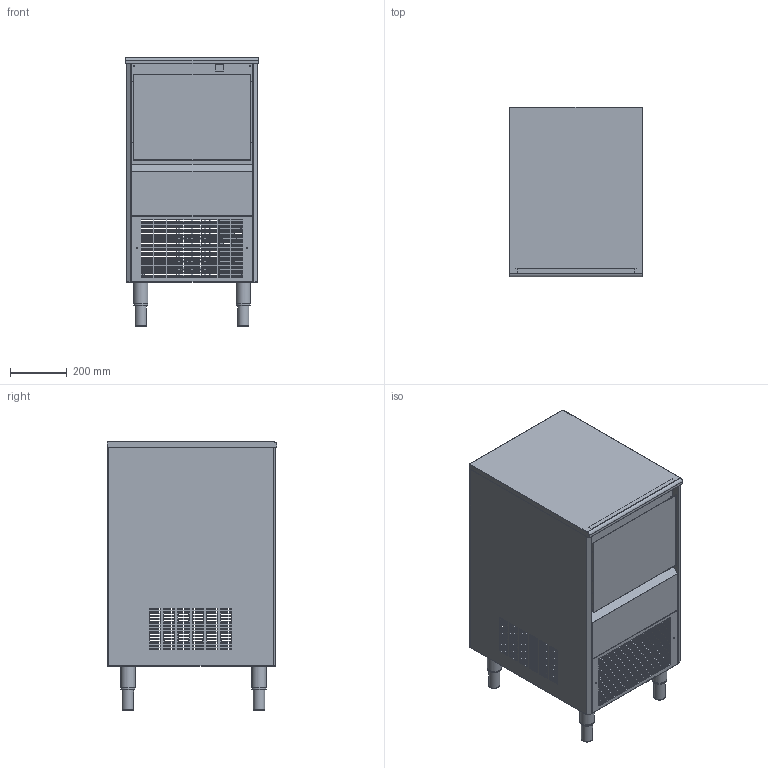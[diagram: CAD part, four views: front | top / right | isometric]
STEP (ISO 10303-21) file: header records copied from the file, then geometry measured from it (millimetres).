
FILE_DESCRIPTION(/* description */ ('Unknown'),/* implementation_level */ '2;1');
FILE_NAME(/* name */ 'ICE-TECH CD 55',/* time_stamp */ '2018-04-20T08:09:42+02:00',/* author */ ('Unknown'),/* organization */ ('Unknown'),/* preprocessor_version */ 'ST-DEVELOPER v16.7',/* originating_system */ 'DEX',/* authorisation */ $);
FILE_SCHEMA (('CONFIG_CONTROL_DESIGN'));
Products named in the file (16): NG-40; NG-40+carroceria_oa_0; 32-10+490; 32-4+161; 32-5+207; 32-7+421; 32-6+418; 32-44+4400; 32-11+5030_oa_1; 32-12+484; 32-9+920; 25-35+1728; 32-10+489; 32-25+635; 32-30; H-205
Assembly tree (18 placements, depth 4):
  NG-40
    NG-40+carroceria_oa_0
      32-10+490
      32-4+161
      32-5+207
      32-7+421
      32-6+418
      32-44+4400
      32-11+5030_oa_1
        32-12+484
      32-9+920
      25-35+1728
      32-10+489
      32-25+635
    32-30  x4
    H-205
Bounding box: 465 x 595.2 x 942.9 mm (x, y, z)
Volume: 3008623.8 mm3; surface area: 5015586.7 mm2
Topology: 16 solids, 16 shells, 2661 faces, 7854 edges, 5201 vertices
Faces by surface type: plane 1978, cylinder 665, torus 8, bspline 6, cone 4
Full cylindrical faces by diameter (mm): 2.4 x18, 2.7 x8, 2.9 x5, 3.5 x27, 4 x3, 4.25 x36, 5 x25, 6 x4, 7 x10, 8 x2, 9 x2, 10 x4, 20 x4, 30 x1, 38 x4, 40 x4, 50 x4, 51 x4
Entity records: 88319 total; most frequent: CARTESIAN_POINT 15732, ORIENTED_EDGE 14838, DIRECTION 13882, EDGE_CURVE 7419, LINE 6016, VECTOR 6016, VERTEX_POINT 5023, EDGE_LOOP 4160
